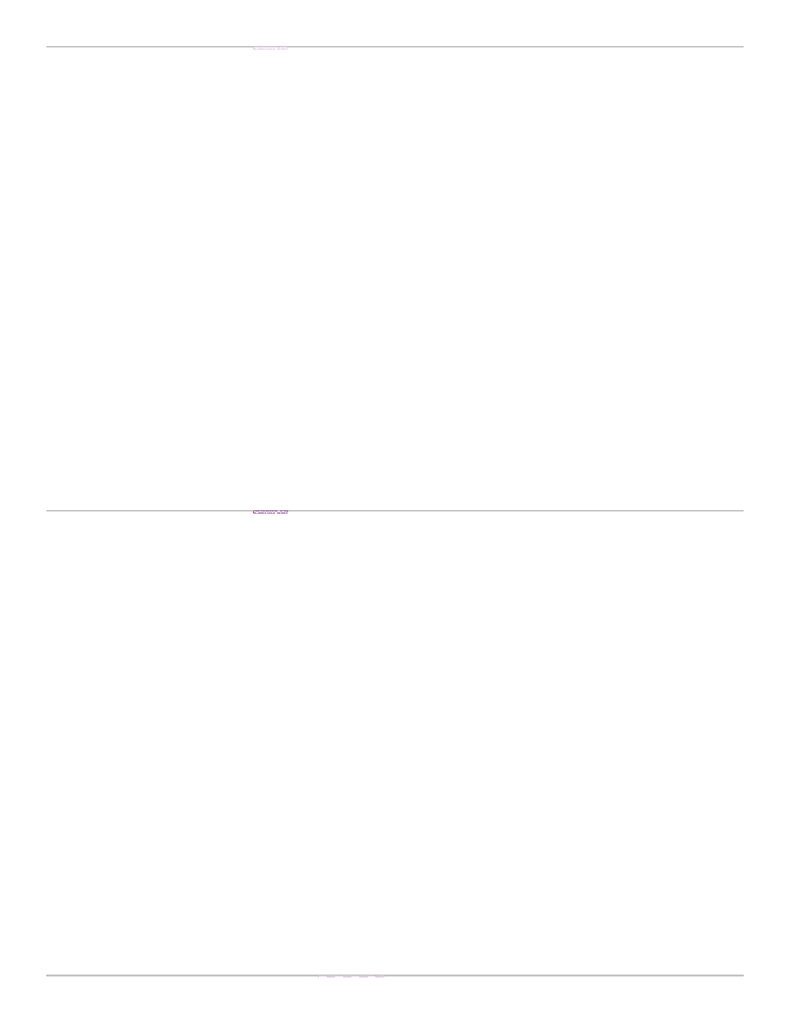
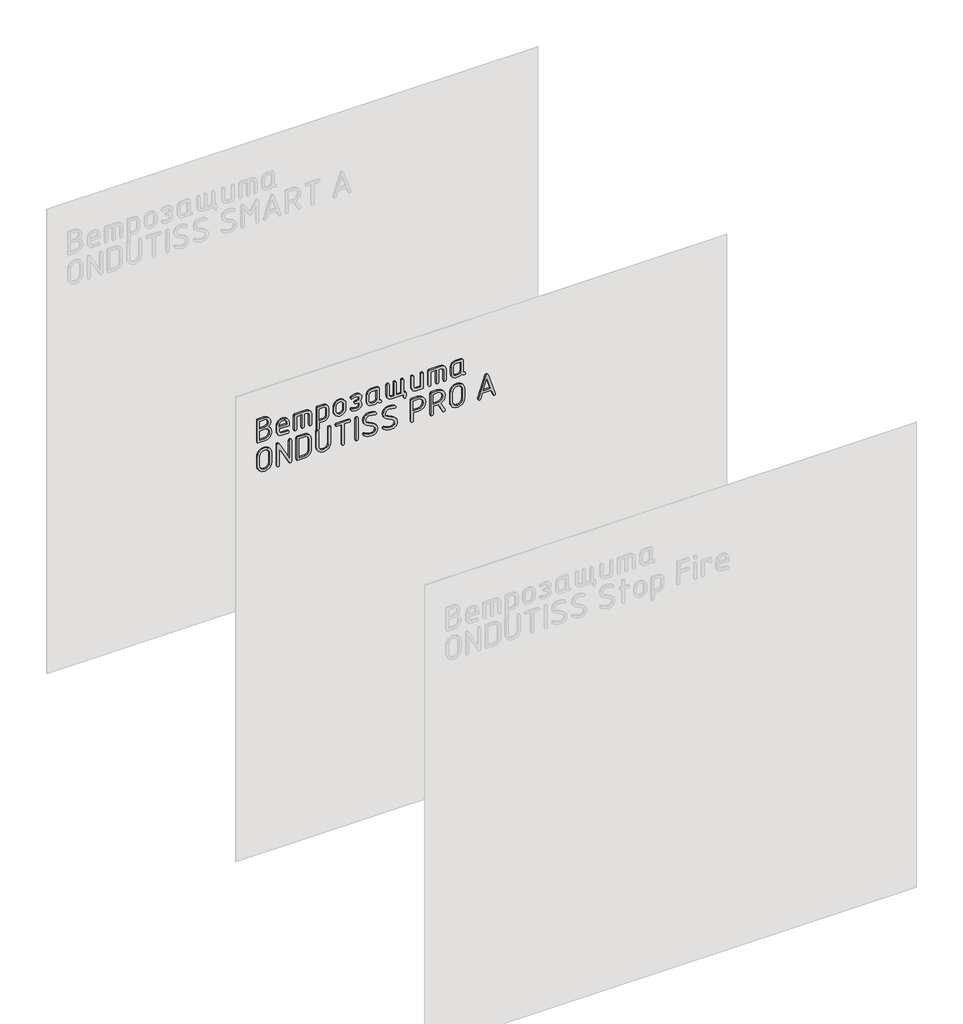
# One storey, part 22 of 42: 1 proxy.
"""IFC4 building model written with IfcOpenShell, lengths in millimetres."""

from ifc_helpers import new_model, si_unit, frame, origin, place, context, project, spatial, polyline, outline, extrude, element, save

model = new_model("IFC4")

# Units and contexts
model_context = context("Model", 3, world=origin())
ifc_project = project(units=[si_unit("LENGTHUNIT", "METRE", prefix="MILLI")], contexts=[model_context])

# Site, building, storey
site = spatial("IfcSite", under=ifc_project)
building = spatial("IfcBuilding", under=site)
storey = spatial("IfcBuildingStorey", under=building, Name="Этаж 01", Elevation=0.0)

# Proxy
placement = place(None, origin())
element("IfcBuildingElementProxy", 1, Name="150 мм GOST Common", ObjectType="150 мм GOST Common", at=placement, inside=storey, context=model_context, shape_type="SweptSolid", body=[
    extrude(outline(polyline([(2745.2967896, -23242.9801231), (2758.5207699, -23232.3430091), (2775.180588, -23228.7973044), (2790.0625597, -23231.4890436), (2802.4275806, -23239.5642611), (2810.7574896, -23251.5547357), (2813.534126, -23265.9922459), (2813.534126, -23303.1871874), (2811.6464128, -23308.7604359), (2805.9832732, -23310.6181854), (2670.2277293, -23310.6181854), (2664.5645897, -23308.750448), (2662.6768765, -23303.1472358), (2662.6768765, -23265.8723911), (2665.9479139, -23248.6932022), (2675.7610262, -23234.2307223), (2690.1885485, -23224.4026281), (2707.302816, -23221.1265968), (2729.4859431, -23226.5899784), (2745.2967896, -23242.9801231)]), holes=[polyline([(2798.1927108, -23295.2767702), (2798.1927108, -23266.0721491), (2796.5097495, -23257.6373671), (2791.4608658, -23250.5509517), (2784.0248739, -23245.7417776), (2775.180588, -23244.1387196), (2766.3363021, -23245.7417776), (2758.9003101, -23250.5509517), (2753.8514264, -23257.6373671), (2752.1684652, -23266.0721491), (2752.1684652, -23295.2767702), (2798.1927108, -23295.2767702)]), polyline([(2736.82705, -23295.2767702), (2736.82705, -23265.8723911), (2734.6946332, -23254.4811906), (2728.2973829, -23244.997679), (2718.8138714, -23238.6004287), (2707.4226708, -23236.468012), (2696.0314703, -23238.6004287), (2686.5479588, -23244.997679), (2680.1507085, -23254.4811906), (2678.0182917, -23265.8723911), (2678.0182917, -23295.2767702), (2736.82705, -23295.2767702)])]), frame((0.0, -25837.3929597, 0.0), z_axis=(0.0, 1.0, 0.0), x_axis=(0.0, 0.0, 1.0)), (0.0, 0.0, 1.0), 10.0),
    extrude(outline(polyline([(2708.7011221, -23175.1023512), (2708.7011221, -23115.0950449), (2730.7544065, -23115.0950449), (2745.0371042, -23117.8067599), (2756.8827542, -23125.9419048), (2764.8530988, -23138.0322584), (2767.5098804, -23152.6095992), (2764.7731956, -23167.0770731), (2756.5631414, -23179.3172452), (2744.4677939, -23187.6621361), (2730.0752292, -23190.4437664), (2692.6405781, -23190.4437664), (2681.004674, -23188.2264525), (2671.3463742, -23181.5745107), (2664.8442509, -23171.7763803), (2662.6768765, -23160.1205004), (2662.6768765, -23122.6059461), (2664.5945534, -23116.9727702), (2670.3475841, -23115.0950449), (2676.1006148, -23116.9727702), (2678.0182917, -23122.6059461), (2678.0182917, -23160.1205004), (2682.5527986, -23170.6677234), (2693.3597069, -23175.1023512), (2708.7011221, -23175.1023512)]), holes=[polyline([(2754.0461905, -23152.6095992), (2752.3981869, -23143.9800532), (2747.4541761, -23136.7088616), (2740.1829845, -23131.7648508), (2731.5534385, -23130.1168472), (2724.0425373, -23130.1168472), (2724.0425373, -23175.1023512), (2731.5534385, -23175.1023512), (2740.1829845, -23173.4543476), (2747.4541761, -23168.5103368), (2752.3981869, -23161.2391453), (2754.0461905, -23152.6095992)])]), frame((0.0, -25837.3929597, 0.0), z_axis=(0.0, 1.0, 0.0), x_axis=(0.0, 0.0, 1.0)), (0.0, 0.0, 1.0), 10.0),
    extrude(outline(polyline([(2767.5098804, -23077.9400549), (2765.642143, -23083.6930856), (2760.0389308, -23085.6107625), (2670.1478261, -23085.6107625), (2664.5446139, -23083.6930856), (2662.6768765, -23077.9400549), (2664.5446139, -23072.1870242), (2670.1478261, -23070.2693473), (2752.1684652, -23070.2693473), (2752.1684652, -23039.5865169), (2670.1478261, -23039.5865169), (2664.5446139, -23037.66884), (2662.6768765, -23031.9158093), (2664.5446139, -23026.1627786), (2670.1478261, -23024.2451017), (2752.1684652, -23024.2451017), (2752.1684652, -23008.9036865), (2747.8736679, -22997.9769234), (2737.2665176, -22993.5622713), (2670.1478261, -22993.5622713), (2664.5446139, -22991.6445944), (2662.6768765, -22985.8915637), (2664.5446139, -22980.138533), (2670.1478261, -22978.2208561), (2737.5461788, -22978.2208561), (2749.1071737, -22980.4581459), (2758.7804553, -22987.170015), (2765.3275241, -22997.0780123), (2767.5098804, -23008.9036865), (2767.5098804, -23077.9400549)])), frame((0.0, -25837.3929597, 0.0), z_axis=(0.0, 1.0, 0.0), x_axis=(0.0, 0.0, 1.0)), (0.0, 0.0, 1.0), 10.0),
    extrude(outline(polyline([(2759.9590276, -22947.5380258), (2624.2034837, -22947.5380258), (2618.5403441, -22945.6203489), (2616.6526309, -22939.8673182), (2618.5703078, -22934.1142875), (2624.3233385, -22932.1966106), (2662.6768765, -22932.1966106), (2662.6768765, -22902.7922314), (2664.8592328, -22891.4010309), (2671.4063016, -22881.9175193), (2681.0795832, -22875.5202691), (2692.6405781, -22873.3878523), (2737.5461788, -22873.3878523), (2749.1820829, -22875.5352509), (2758.8403827, -22881.9774467), (2765.342506, -22891.5358675), (2767.5098804, -22903.031941), (2767.5098804, -22940.1070278), (2765.6221672, -22945.6802763), (2759.9590276, -22947.5380258)]), holes=[polyline([(2752.1684652, -22932.1966106), (2752.1684652, -22903.2316991), (2747.8936437, -22892.9042099), (2737.3464208, -22888.7292675), (2692.8403361, -22888.7292675), (2682.3530405, -22892.9641373), (2678.0182917, -22903.2316991), (2678.0182917, -22932.1966106), (2752.1684652, -22932.1966106)])]), frame((0.0, -25837.3929597, 0.0), z_axis=(0.0, 1.0, 0.0), x_axis=(0.0, 0.0, 1.0)), (0.0, 0.0, 1.0), 10.0),
    extrude(outline(polyline([(2700.1115277, -22842.7050219), (2685.718963, -22839.9933069), (2673.6236155, -22831.8581619), (2665.4135613, -22819.8776753), (2662.6768765, -22805.6299352), (2665.4135613, -22791.3821951), (2673.6236155, -22779.4017084), (2685.718963, -22771.2665634), (2700.1115277, -22768.5548485), (2730.0752292, -22768.5548485), (2744.6176124, -22771.2365997), (2756.6829962, -22779.2818536), (2764.8031593, -22791.2323766), (2767.5098804, -22805.6299352), (2764.7731956, -22819.8776753), (2756.5631414, -22831.8581619), (2744.4677939, -22839.9933069), (2730.0752292, -22842.7050219), (2700.1115277, -22842.7050219)]), holes=[polyline([(2700.5509953, -22783.8962636), (2691.8914855, -22785.4893338), (2684.6103061, -22790.2685442), (2679.6662953, -22797.2950322), (2678.0182917, -22805.6299352), (2679.6563074, -22814.0397474), (2684.5703545, -22821.0512536), (2691.841546, -22825.7855184), (2700.5509953, -22827.3636067), (2730.5546484, -22827.3636067), (2739.1841945, -22825.7705366), (2746.4553861, -22820.9913262), (2751.3993968, -22813.9648382), (2753.0474004, -22805.6299352), (2751.3993968, -22797.2950322), (2746.4553861, -22790.2685442), (2739.1841945, -22785.4893338), (2730.5546484, -22783.8962636), (2700.5509953, -22783.8962636)])]), frame((0.0, -25837.3929597, 0.0), z_axis=(0.0, 1.0, 0.0), x_axis=(0.0, 0.0, 1.0)), (0.0, 0.0, 1.0), 10.0),
    extrude(outline(polyline([(2693.3996585, -22686.7339674), (2682.5128469, -22691.1086678), (2678.0182917, -22701.7557698), (2678.0182917, -22709.266671), (2681.8336697, -22724.3084492), (2685.6490477, -22733.4373902), (2682.9323388, -22737.5524052), (2677.6587273, -22739.2703241), (2671.7059386, -22736.2240145), (2666.6320851, -22727.0850855), (2662.6768765, -22709.266671), (2662.6768765, -22701.7557698), (2664.8991844, -22690.0699262), (2671.566108, -22680.2618079), (2681.4591234, -22673.6098661), (2693.3597069, -22671.3925522), (2707.1829612, -22674.0393458), (2716.3718297, -22681.9797267), (2725.0113637, -22674.0393458), (2738.3052592, -22671.3925522), (2749.6215505, -22673.6098661), (2759.0401407, -22680.2618079), (2765.3924455, -22690.0699262), (2767.5098804, -22701.7557698), (2767.5098804, -22709.266671), (2763.434817, -22726.9652307), (2758.2710724, -22736.1940508), (2752.5280296, -22739.2703241), (2747.2743939, -22737.5524052), (2744.5377092, -22733.557245), (2748.3530872, -22724.6480378), (2752.1684652, -22709.266671), (2752.1684652, -22701.7557698), (2748.1133776, -22691.0687162), (2738.1055012, -22686.7339674), (2728.0976249, -22690.7690792), (2724.0425373, -22702.434947), (2724.0425373, -22704.8320431), (2724.0425373, -22707.1092845), (2721.7852718, -22714.5203066), (2716.3318781, -22716.7376206), (2710.8984602, -22714.580234), (2708.7011221, -22709.266671), (2708.7011221, -22699.5983833), (2704.7459135, -22690.7291276), (2693.3996585, -22686.7339674)])), frame((0.0, -25837.3929597, 0.0), z_axis=(0.0, 1.0, 0.0), x_axis=(0.0, 0.0, 1.0)), (0.0, 0.0, 1.0), 10.0),
    extrude(outline(polyline([(2670.1478261, -22551.5776976), (2675.781002, -22553.4504289), (2677.6587273, -22559.068623), (2679.5264647, -22564.686817), (2685.1296769, -22566.5595483), (2760.0389308, -22566.5595483), (2765.642143, -22568.4172978), (2767.5098804, -22573.9905463), (2767.5098804, -22611.0656331), (2765.342506, -22622.5617066), (2758.8403827, -22632.1201274), (2749.1820829, -22638.5623232), (2737.5461788, -22640.7097218), (2692.6405781, -22640.7097218), (2681.004674, -22638.5623232), (2671.3463742, -22632.1201274), (2664.8442509, -22622.5617066), (2662.6768765, -22611.0656331), (2662.6768765, -22596.2036371), (2664.6644687, -22585.2269344), (2670.6272453, -22576.1079812), (2664.6644687, -22568.5271648), (2662.6768765, -22559.0486472), (2664.5446139, -22553.445435), (2670.1478261, -22551.5776976)]), holes=[polyline([(2752.1684652, -22581.9009635), (2692.8403361, -22581.9009635), (2682.3530405, -22586.1358334), (2678.0182917, -22596.4033951), (2678.0182917, -22610.8658751), (2682.3929921, -22621.0934852), (2692.8403361, -22625.3683066), (2737.3464208, -22625.3683066), (2747.8337163, -22621.1334368), (2752.1684652, -22610.8658751), (2752.1684652, -22581.9009635)])]), frame((0.0, -25837.3929597, 0.0), z_axis=(0.0, 1.0, 0.0), x_axis=(0.0, 0.0, 1.0)), (0.0, 0.0, 1.0), 10.0),
    extrude(outline(polyline([(2662.6768765, -22415.7022989), (2647.3354613, -22415.7022989), (2641.5824306, -22413.784622), (2639.6647537, -22408.0315913), (2641.5824306, -22402.2785606), (2647.3354613, -22400.3608837), (2670.3475841, -22400.3608837), (2676.1006148, -22402.2785606), (2678.0182917, -22408.0315913), (2678.0182917, -22415.7022989), (2760.0389308, -22415.7022989), (2765.642143, -22417.6199758), (2767.5098804, -22423.3730065), (2765.642143, -22429.1260372), (2760.0389308, -22431.0437141), (2678.0182917, -22431.0437141), (2678.0182917, -22461.7265445), (2760.0389308, -22461.7265445), (2765.642143, -22463.6442214), (2767.5098804, -22469.3972521), (2765.642143, -22475.1502828), (2760.0389308, -22477.0679597), (2678.0182917, -22477.0679597), (2678.0182917, -22491.1309236), (2682.4329437, -22501.0389209), (2692.9202393, -22505.1938876), (2760.0389308, -22505.1938876), (2765.642143, -22507.1115645), (2767.5098804, -22512.8645952), (2765.642143, -22518.6176259), (2760.0389308, -22520.5353028), (2692.6405781, -22520.5353028), (2681.0795832, -22518.3679283), (2671.4063016, -22511.8658051), (2664.8592328, -22502.2075053), (2662.6768765, -22490.5716012), (2662.6768765, -22415.7022989)])), frame((0.0, -25837.3929597, 0.0), z_axis=(0.0, 1.0, 0.0), x_axis=(0.0, 0.0, 1.0)), (0.0, 0.0, 1.0), 10.0),
    extrude(outline(polyline([(2760.0389308, -22295.5278799), (2765.642143, -22297.4455568), (2767.5098804, -22303.1985875), (2765.642143, -22308.9516182), (2760.0389308, -22310.8692951), (2678.0182917, -22310.8692951), (2678.0182917, -22339.8342066), (2682.4329437, -22350.0618167), (2692.9202393, -22354.3366381), (2760.0389308, -22354.3366381), (2765.642143, -22356.254315), (2767.5098804, -22362.0073457), (2765.642143, -22367.7603764), (2760.0389308, -22369.6780533), (2692.6405781, -22369.6780533), (2681.004674, -22367.5306547), (2671.3463742, -22361.0884589), (2664.8442509, -22351.5300381), (2662.6768765, -22340.0339646), (2662.6768765, -22302.9588778), (2664.5446139, -22297.3856294), (2670.1478261, -22295.5278799), (2760.0389308, -22295.5278799)])), frame((0.0, -25837.3929597, 0.0), z_axis=(0.0, 1.0, 0.0), x_axis=(0.0, 0.0, 1.0)), (0.0, 0.0, 1.0), 10.0),
    extrude(outline(polyline([(2767.5098804, -22257.1743419), (2765.642143, -22262.9273726), (2760.0389308, -22264.8450495), (2670.1478261, -22264.8450495), (2664.5446139, -22262.9273726), (2662.6768765, -22257.1743419), (2664.5446139, -22251.4213112), (2670.1478261, -22249.5036343), (2752.1684652, -22249.5036343), (2752.1684652, -22218.8208039), (2670.1478261, -22218.8208039), (2664.5446139, -22216.903127), (2662.6768765, -22211.1500963), (2664.5446139, -22205.3970656), (2670.1478261, -22203.4793887), (2752.1684652, -22203.4793887), (2752.1684652, -22188.1379735), (2747.8736679, -22177.2112103), (2737.2665176, -22172.7965583), (2670.1478261, -22172.7965583), (2664.5446139, -22170.8788814), (2662.6768765, -22165.1258507), (2664.5446139, -22159.37282), (2670.1478261, -22157.4551431), (2737.5461788, -22157.4551431), (2749.1071737, -22159.6924328), (2758.7804553, -22166.4043019), (2765.3275241, -22176.3122993), (2767.5098804, -22188.1379735), (2767.5098804, -22257.1743419)])), frame((0.0, -25837.3929597, 0.0), z_axis=(0.0, 1.0, 0.0), x_axis=(0.0, 0.0, 1.0)), (0.0, 0.0, 1.0), 10.0),
    extrude(outline(polyline([(2670.1478261, -22037.6402885), (2675.781002, -22039.5130198), (2677.6587273, -22045.1312138), (2679.5264647, -22050.7494079), (2685.1296769, -22052.6221392), (2760.0389308, -22052.6221392), (2765.642143, -22054.4798887), (2767.5098804, -22060.0531372), (2767.5098804, -22097.1282239), (2765.342506, -22108.6242974), (2758.8403827, -22118.1827182), (2749.1820829, -22124.6249141), (2737.5461788, -22126.7723127), (2692.6405781, -22126.7723127), (2681.004674, -22124.6249141), (2671.3463742, -22118.1827182), (2664.8442509, -22108.6242974), (2662.6768765, -22097.1282239), (2662.6768765, -22082.266228), (2664.6644687, -22071.2895253), (2670.6272453, -22062.1705721), (2664.6644687, -22054.5897556), (2662.6768765, -22045.111238), (2664.5446139, -22039.5080259), (2670.1478261, -22037.6402885)]), holes=[polyline([(2752.1684652, -22067.9635544), (2692.8403361, -22067.9635544), (2682.3530405, -22072.1984243), (2678.0182917, -22082.465986), (2678.0182917, -22096.9284659), (2682.3929921, -22107.1560761), (2692.8403361, -22111.4308975), (2737.3464208, -22111.4308975), (2747.8337163, -22107.1960277), (2752.1684652, -22096.9284659), (2752.1684652, -22067.9635544)])]), frame((0.0, -25837.3929597, 0.0), z_axis=(0.0, 1.0, 0.0), x_axis=(0.0, 0.0, 1.0)), (0.0, 0.0, 1.0), 10.0),
    extrude(outline(polyline([(2511.9177961, -23221.1265968), (2572.2447152, -23221.1265968), (2589.6885835, -23224.3876463), (2604.3058759, -23234.1707949), (2614.2088792, -23248.618293), (2617.5098804, -23265.8723911), (2614.1938974, -23283.05158), (2604.2459485, -23297.5140599), (2589.6136742, -23307.3421541), (2572.2447152, -23310.6181854), (2511.9177961, -23310.6181854), (2494.5488371, -23307.3421541), (2479.9165628, -23297.5140599), (2469.9686139, -23283.05158), (2466.6526309, -23265.8723911), (2469.9686139, -23248.6932022), (2479.9165628, -23234.2307223), (2494.5488371, -23224.4026281), (2511.9177961, -23221.1265968)]), holes=[polyline([(2512.0376509, -23236.468012), (2500.3917589, -23238.6004287), (2490.7034954, -23244.997679), (2484.1714084, -23254.4811906), (2481.9940461, -23265.8723911), (2484.1714084, -23277.2635916), (2490.7034954, -23286.7471032), (2500.3917589, -23293.1443535), (2512.0376509, -23295.2767702), (2572.1248604, -23295.2767702), (2583.7707524, -23293.1443535), (2593.4590159, -23286.7471032), (2599.9911029, -23277.2635916), (2602.1684652, -23265.8723911), (2599.9911029, -23254.4811906), (2593.4590159, -23244.997679), (2583.7707524, -23238.6004287), (2572.1248604, -23236.468012), (2512.0376509, -23236.468012)])]), frame((0.0, -25837.3929597, 0.0), z_axis=(0.0, 1.0, 0.0), x_axis=(0.0, 0.0, 1.0)), (0.0, 0.0, 1.0), 10.0),
    extrude(outline(polyline([(2503.3282016, -23116.2935929), (2613.0353009, -23175.1023512), (2617.5098804, -23182.453446), (2615.6221672, -23188.4461863), (2609.9590276, -23190.4437664), (2474.2034837, -23190.4437664), (2468.5403441, -23188.5260895), (2466.6526309, -23182.7730588), (2468.5403441, -23177.0200281), (2474.2034837, -23175.1023512), (2580.9541645, -23175.1023512), (2470.4080815, -23116.2935929), (2466.6526309, -23109.1023046), (2468.5403441, -23102.9897094), (2474.2034837, -23100.9521777), (2609.9590276, -23100.9521777), (2615.6221672, -23102.8698546), (2617.5098804, -23108.6228853), (2615.6221672, -23114.375916), (2609.9590276, -23116.2935929), (2503.3282016, -23116.2935929)])), frame((0.0, -25837.3929597, 0.0), z_axis=(0.0, 1.0, 0.0), x_axis=(0.0, 0.0, 1.0)), (0.0, 0.0, 1.0), 10.0),
    extrude(outline(polyline([(2609.9590276, -23070.2693473), (2474.2034837, -23070.2693473), (2468.5403441, -23068.4016099), (2466.6526309, -23062.7983977), (2466.6526309, -23018.0526034), (2469.4092915, -23003.7299541), (2477.6792731, -22991.684546), (2489.8645117, -22983.5044555), (2504.3669433, -22980.7777587), (2579.795568, -22980.7777587), (2594.4478181, -22983.4744918), (2606.603093, -22991.5646912), (2614.7831835, -23003.5801356), (2617.5098804, -23018.0526034), (2617.5098804, -23062.7983977), (2615.6221672, -23068.4016099), (2609.9590276, -23070.2693473)]), holes=[polyline([(2602.1684652, -23054.9279321), (2602.1684652, -23018.1724582), (2600.5204616, -23009.6977246), (2595.5764508, -23002.5713576), (2588.2952713, -22997.7322198), (2579.6357616, -22996.1191739), (2504.5267497, -22996.1191739), (2495.8672399, -22997.7322198), (2488.5860605, -23002.5713576), (2483.6420497, -23009.6977246), (2481.9940461, -23018.1724582), (2481.9940461, -23054.9279321), (2602.1684652, -23054.9279321)])]), frame((0.0, -25837.3929597, 0.0), z_axis=(0.0, 1.0, 0.0), x_axis=(0.0, 0.0, 1.0)), (0.0, 0.0, 1.0), 10.0),
    extrude(outline(polyline([(2609.9590276, -22860.6033396), (2615.6221672, -22862.5210165), (2617.5098804, -22868.2740472), (2615.6321551, -22874.0270779), (2609.9989792, -22875.9447548), (2512.1175541, -22875.9447548), (2500.4367044, -22878.0771716), (2490.7234712, -22884.4744219), (2484.1764024, -22893.9579334), (2481.9940461, -22905.349134), (2484.1764024, -22916.7403345), (2490.7234712, -22926.223846), (2500.4367044, -22932.6210963), (2512.1175541, -22934.7535131), (2609.9989792, -22934.7535131), (2615.6321551, -22936.67119), (2617.5098804, -22942.4242207), (2615.6221672, -22948.1772514), (2609.9590276, -22950.0949283), (2511.9177961, -22950.0949283), (2494.5488371, -22946.8188969), (2479.9165628, -22936.9908028), (2469.9686139, -22922.5283229), (2466.6526309, -22905.349134), (2469.9686139, -22888.1699451), (2479.9165628, -22873.7074651), (2494.5488371, -22863.879371), (2511.9177961, -22860.6033396), (2609.9590276, -22860.6033396)])), frame((0.0, -25837.3929597, 0.0), z_axis=(0.0, 1.0, 0.0), x_axis=(0.0, 0.0, 1.0)), (0.0, 0.0, 1.0), 10.0),
    extrude(outline(polyline([(2609.8391728, -22831.6384281), (2604.0861421, -22829.7607028), (2602.1684652, -22824.1275269), (2602.1684652, -22794.1238738), (2474.1635321, -22794.1238738), (2468.5303562, -22792.2061969), (2466.6526309, -22786.4531662), (2468.5303562, -22780.7001355), (2474.1635321, -22778.7824586), (2602.1684652, -22778.7824586), (2602.1684652, -22748.7788054), (2604.0861421, -22743.1755932), (2609.8391728, -22741.3078558), (2615.5922035, -22743.1755932), (2617.5098804, -22748.7788054), (2617.5098804, -22824.1275269), (2615.5922035, -22829.7607028), (2609.8391728, -22831.6384281)])), frame((0.0, -25837.3929597, 0.0), z_axis=(0.0, 1.0, 0.0), x_axis=(0.0, 0.0, 1.0)), (0.0, 0.0, 1.0), 10.0),
    extrude(outline(polyline([(2466.6526309, -22702.0753826), (2468.5403441, -22696.3223519), (2474.2034837, -22694.404675), (2609.9590276, -22694.404675), (2615.6221672, -22696.3223519), (2617.5098804, -22702.0753826), (2615.6221672, -22707.8284133), (2609.9590276, -22709.7460902), (2474.2034837, -22709.7460902), (2468.5403441, -22707.8284133), (2466.6526309, -22702.0753826)])), frame((0.0, -25837.3929597, 0.0), z_axis=(0.0, 1.0, 0.0), x_axis=(0.0, 0.0, 1.0)), (0.0, 0.0, 1.0), 10.0),
    extrude(outline(polyline([(2504.2870401, -22574.2302559), (2524.1429863, -22579.3140973), (2537.8463858, -22594.5656214), (2559.5001542, -22636.2351424), (2567.6602689, -22645.3441076), (2579.59581, -22648.3804294), (2588.2603137, -22646.7673835), (2595.556475, -22641.9282457), (2600.5154676, -22634.8018786), (2602.1684652, -22626.3271451), (2600.4904979, -22609.567448), (2595.456596, -22592.6878961), (2594.657564, -22589.5716711), (2596.8748779, -22584.2780839), (2602.1684652, -22582.06077), (2609.1599955, -22586.4953978), (2615.4224092, -22603.4648408), (2617.5098804, -22626.6467579), (2614.7432319, -22640.8195887), (2606.4432866, -22652.8150572), (2594.2680359, -22660.9951478), (2579.8754712, -22663.7218446), (2560.0494887, -22658.6979306), (2546.4359803, -22643.6261888), (2524.7822119, -22601.9167162), (2516.5322061, -22592.6579324), (2504.5667013, -22589.5716711), (2495.9021976, -22591.1996989), (2488.6060363, -22596.0837823), (2483.6470437, -22603.2750707), (2481.9940461, -22611.8247135), (2485.1901743, -22631.6007565), (2495.657494, -22652.0559768), (2497.0158485, -22656.2908466), (2494.7985346, -22661.5245065), (2489.5049473, -22663.7218446), (2483.3923522, -22660.4458132), (2470.8375612, -22637.5235815), (2466.6526309, -22611.5051007), (2469.4192794, -22597.2573606), (2477.7192247, -22585.1969707), (2489.8944754, -22576.9719346), (2504.2870401, -22574.2302559)])), frame((0.0, -25837.3929597, 0.0), z_axis=(0.0, 1.0, 0.0), x_axis=(0.0, 0.0, 1.0)), (0.0, 0.0, 1.0), 10.0),
    extrude(outline(polyline([(2504.2870401, -22454.0558369), (2524.1429863, -22459.1396783), (2537.8463858, -22474.3912024), (2559.5001542, -22516.0607233), (2567.6602689, -22525.1696886), (2579.59581, -22528.2060104), (2588.2603137, -22526.5929644), (2595.556475, -22521.7538266), (2600.5154676, -22514.6274596), (2602.1684652, -22506.152726), (2600.4904979, -22489.3930289), (2595.456596, -22472.5134771), (2594.657564, -22469.3972521), (2596.8748779, -22464.1036648), (2602.1684652, -22461.8863509), (2609.1599955, -22466.3209787), (2615.4224092, -22483.2904217), (2617.5098804, -22506.4723388), (2614.7432319, -22520.6451697), (2606.4432866, -22532.6406382), (2594.2680359, -22540.8207287), (2579.8754712, -22543.5474256), (2560.0494887, -22538.5235116), (2546.4359803, -22523.4517697), (2524.7822119, -22481.7422971), (2516.5322061, -22472.4835134), (2504.5667013, -22469.3972521), (2495.9021976, -22471.0252799), (2488.6060363, -22475.9093632), (2483.6470437, -22483.1006516), (2481.9940461, -22491.6502945), (2485.1901743, -22511.4263375), (2495.657494, -22531.8815577), (2497.0158485, -22536.1164276), (2494.7985346, -22541.3500874), (2489.5049473, -22543.5474256), (2483.3923522, -22540.2713942), (2470.8375612, -22517.3491625), (2466.6526309, -22491.3306816), (2469.4192794, -22477.0829415), (2477.7192247, -22465.0225517), (2489.8944754, -22456.7975156), (2504.2870401, -22454.0558369)])), frame((0.0, -25837.3929597, 0.0), z_axis=(0.0, 1.0, 0.0), x_axis=(0.0, 0.0, 1.0)), (0.0, 0.0, 1.0), 10.0),
    extrude(outline(polyline([(2617.5098804, -22364.7640063), (2615.6221672, -22370.3672185), (2609.9590276, -22372.2349558), (2474.2034837, -22372.2349558), (2468.5403441, -22370.3172789), (2466.6526309, -22364.5642482), (2468.4904046, -22358.8112175), (2474.0037257, -22356.8935406), (2525.4613892, -22356.8935406), (2525.4613892, -22327.2494519), (2528.6575173, -22309.3261644), (2538.2459018, -22295.108388), (2552.9480914, -22285.8346224), (2571.4856348, -22282.7433672), (2589.2241461, -22286.0044167), (2604.0861421, -22295.7875653), (2614.1539458, -22310.2350634), (2617.5098804, -22327.4891615), (2617.5098804, -22364.7640063)]), holes=[polyline([(2602.1684652, -22356.8935406), (2602.1684652, -22327.4891615), (2599.9461573, -22316.097961), (2593.2792337, -22306.6144494), (2583.3862182, -22300.2171992), (2571.4856348, -22298.0847824), (2559.5850513, -22300.2171992), (2549.6920358, -22306.6144494), (2543.0251122, -22316.097961), (2540.8028044, -22327.4891615), (2540.8028044, -22356.8935406), (2602.1684652, -22356.8935406)])]), frame((0.0, -25837.3929597, 0.0), z_axis=(0.0, 1.0, 0.0), x_axis=(0.0, 0.0, 1.0)), (0.0, 0.0, 1.0), 10.0),
    extrude(outline(polyline([(2530.1756782, -22188.7372475), (2536.8800565, -22177.2886165), (2546.1263554, -22169.111023), (2557.9145749, -22164.2044669), (2572.2447152, -22162.5689481), (2589.6885835, -22165.8299977), (2604.3058759, -22175.6131462), (2614.2088792, -22190.0606443), (2617.5098804, -22207.3147425), (2617.5098804, -22244.5895872), (2615.6221672, -22250.1927994), (2609.9590276, -22252.0605368), (2474.2034837, -22252.0605368), (2468.5403441, -22250.1428599), (2466.6526309, -22244.3898292), (2468.4904046, -22238.6367985), (2474.0037257, -22236.7191216), (2525.4613892, -22236.7191216), (2525.4613892, -22207.6343553), (2525.581244, -22204.9975496), (2470.7676459, -22177.9103633), (2466.6526309, -22170.5992202), (2468.9298722, -22165.0059959), (2474.2034837, -22162.5689481), (2477.6393215, -22162.5689481), (2530.1756782, -22188.7372475)]), holes=[polyline([(2602.1684652, -22236.7191216), (2602.1684652, -22207.3147425), (2599.9461573, -22195.9235419), (2593.2792337, -22186.4400304), (2583.3862182, -22180.0427801), (2571.4856348, -22177.9103633), (2559.5850513, -22180.0427801), (2549.6920358, -22186.4400304), (2543.0251122, -22195.9235419), (2540.8028044, -22207.3147425), (2540.8028044, -22236.7191216), (2602.1684652, -22236.7191216)])]), frame((0.0, -25837.3929597, 0.0), z_axis=(0.0, 1.0, 0.0), x_axis=(0.0, 0.0, 1.0)), (0.0, 0.0, 1.0), 10.0),
    extrude(outline(polyline([(2511.9177961, -22042.3945291), (2572.2447152, -22042.3945291), (2589.6885835, -22045.6555786), (2604.3058759, -22055.4387272), (2614.2088792, -22069.8862253), (2617.5098804, -22087.1403234), (2614.1938974, -22104.3195123), (2604.2459485, -22118.7819923), (2589.6136742, -22128.6100864), (2572.2447152, -22131.8861178), (2511.9177961, -22131.8861178), (2494.5488371, -22128.6100864), (2479.9165628, -22118.7819923), (2469.9686139, -22104.3195123), (2466.6526309, -22087.1403234), (2469.9686139, -22069.9611345), (2479.9165628, -22055.4986546), (2494.5488371, -22045.6705605), (2511.9177961, -22042.3945291)]), holes=[polyline([(2512.0376509, -22057.7359443), (2500.3917589, -22059.8683611), (2490.7034954, -22066.2656113), (2484.1714084, -22075.7491229), (2481.9940461, -22087.1403234), (2484.1714084, -22098.531524), (2490.7034954, -22108.0150355), (2500.3917589, -22114.4122858), (2512.0376509, -22116.5447026), (2572.1248604, -22116.5447026), (2583.7707524, -22114.4122858), (2593.4590159, -22108.0150355), (2599.9911029, -22098.531524), (2602.1684652, -22087.1403234), (2599.9911029, -22075.7491229), (2593.4590159, -22066.2656113), (2583.7707524, -22059.8683611), (2572.1248604, -22057.7359443), (2512.0376509, -22057.7359443)])]), frame((0.0, -25837.3929597, 0.0), z_axis=(0.0, 1.0, 0.0), x_axis=(0.0, 0.0, 1.0)), (0.0, 0.0, 1.0), 10.0),
    extrude(outline(polyline([(2474.2034837, -21855.9004506), (2476.6005798, -21856.260015), (2611.6769465, -21901.045761), (2616.0516469, -21903.8423731), (2617.5098804, -21908.3968557), (2615.9917195, -21913.0112658), (2611.4372369, -21915.9077569), (2476.6005798, -21960.573648), (2474.2034837, -21960.9332125), (2468.5403441, -21959.0554872), (2466.6526309, -21953.4223113), (2467.9610459, -21948.8977923), (2471.8862908, -21946.2709745), (2505.0061689, -21935.4440903), (2505.0061689, -21881.3496211), (2471.8862908, -21870.5626886), (2467.9610459, -21867.9358707), (2466.6526309, -21863.4113518), (2468.5403441, -21857.7781759), (2474.2034837, -21855.9004506)]), holes=[polyline([(2586.5074372, -21908.3968557), (2520.3475841, -21886.383523), (2520.3475841, -21930.4501401), (2586.5074372, -21908.3968557)])]), frame((0.0, -25837.3929597, 0.0), z_axis=(0.0, 1.0, 0.0), x_axis=(0.0, 0.0, 1.0)), (0.0, 0.0, 1.0), 10.0),
])

save(model, "model.ifc")
